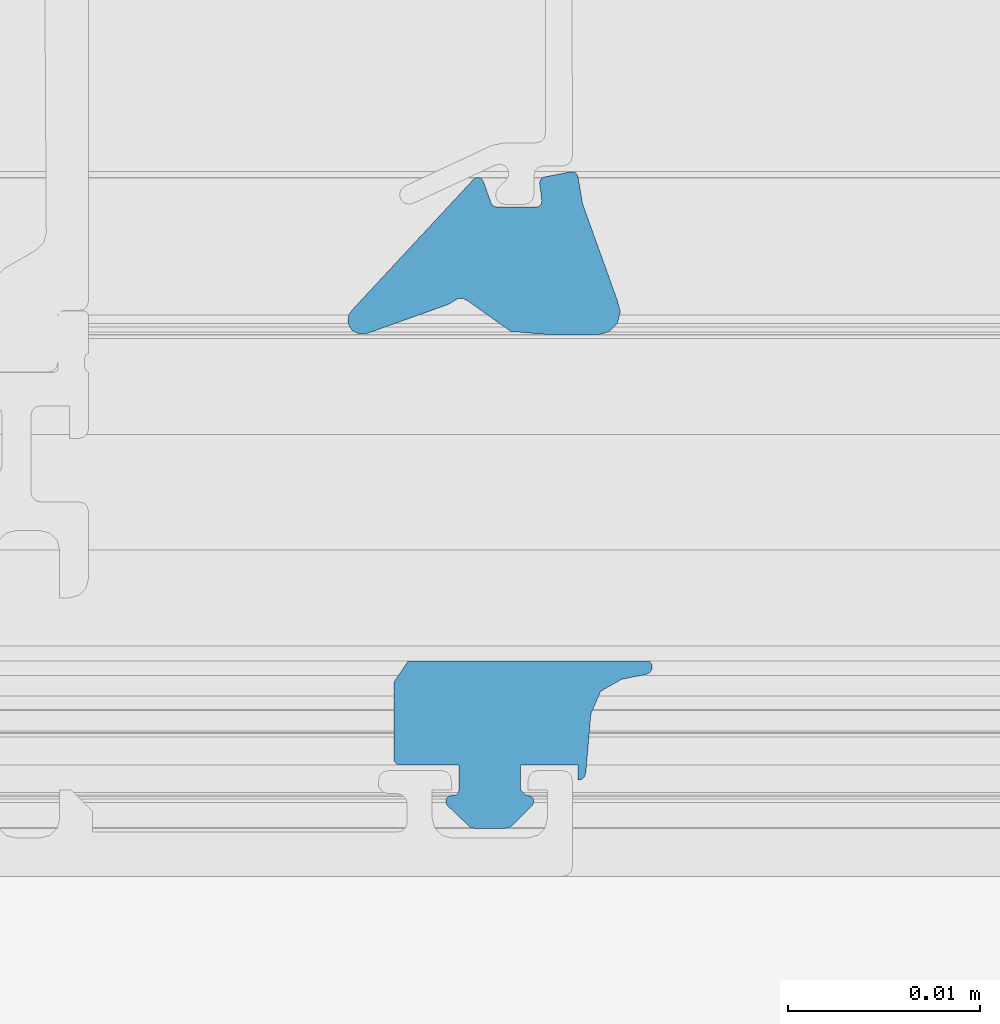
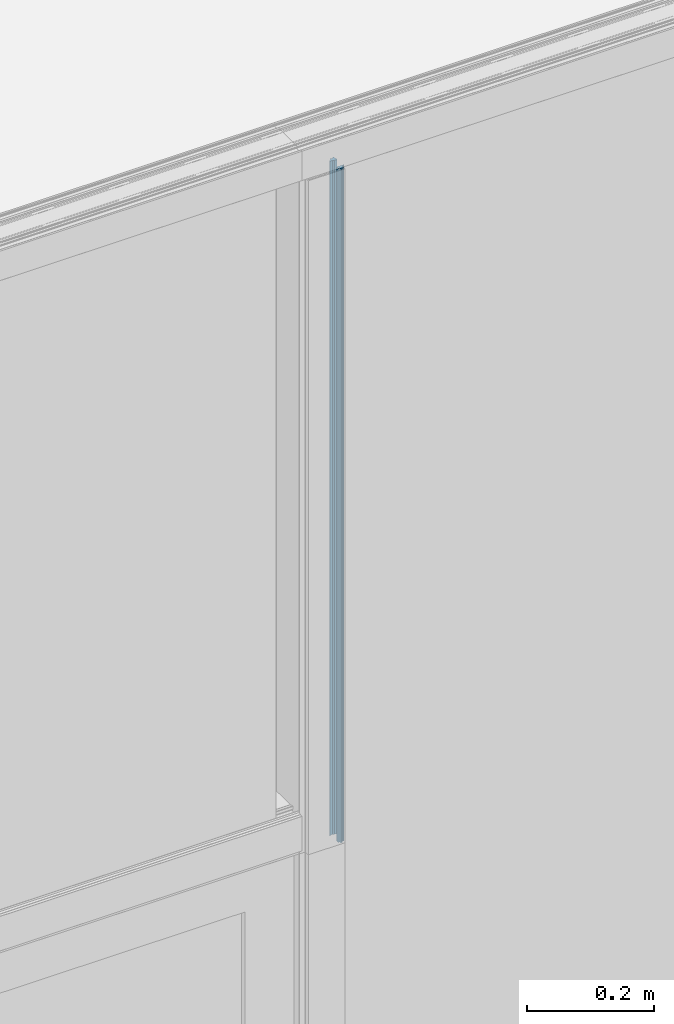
# One storey, part 27 of 69: 1 building element part, 2 elements without a shape of their own.
"""IFC2X3 building model written with IfcOpenShell, lengths in millimetres."""

import ifcopenshell
import ifcopenshell.guid

model = None  # the IFC model being written
_history = None  # IfcOwnerHistory: only IFC2X3 demands one
_inside = {}  # id of a spatial element -> (the spatial element, [elements in it])
_under = {}  # id of a project, library or spatial element -> (it, [spatial elements below it])
_declared = {}  # id of a project -> (the project, [libraries it declares])
_typed = {}  # id of a type object -> (the type object, [elements of that type])
_made_of = {}  # id of a material, layer set ... -> (it, [elements and type objects made of it])


def new_model(schema):
    """Start an empty IFC model of exactly this schema.

    Asked for "IFC4X3", IfcOpenShell would pick the latest addendum, in which some entities
    have other attributes; the version numbers below select the first issue.
    IFC2X3 requires an IfcOwnerHistory on every rooted entity: one is made here for all.
    """
    global model, _history
    if schema == "IFC4X3":
        model = ifcopenshell.file(schema_version=(4, 3, 0, 0))
    else:
        model = ifcopenshell.file(schema=schema)
    _inside.clear()
    _under.clear()
    _declared.clear()
    _typed.clear()
    _made_of.clear()
    _history = None
    if model.schema == "IFC2X3":
        org = make("IfcOrganization", Name="unknown")
        user = make(
            "IfcPersonAndOrganization",
            ThePerson=make("IfcPerson", FamilyName="unknown"),
            TheOrganization=org,
        )
        app = make(
            "IfcApplication",
            ApplicationDeveloper=org,
            Version="unknown",
            ApplicationFullName="unknown",
            ApplicationIdentifier="unknown",
        )
        _history = make(
            "IfcOwnerHistory",
            OwningUser=user,
            OwningApplication=app,
            ChangeAction="ADDED",
            CreationDate=0,
        )
    return model


def make(cls, **values):
    """One entity of the class cls with the attributes given. An attribute that is None is left unset."""
    return model.create_entity(
        cls, **{name: value for name, value in values.items() if value is not None}
    )


def entity(cls, *values):
    """Any entity or typed value of the class cls, its attributes in the order of the schema. None: left unset."""
    e = model.create_entity(cls)
    for i, value in enumerate(values):
        if value is not None:
            e[i] = value
    return e


def rooted(cls, **values):
    """An entity with a GlobalId (a new one), such as an element, a storey or a relation."""
    return make(cls, GlobalId=ifcopenshell.guid.new(), OwnerHistory=_history, **values)


def si_unit(unit_type, name, prefix=None):
    """IfcSIUnit, for example si_unit("LENGTHUNIT", "METRE", prefix="MILLI")."""
    return make("IfcSIUnit", UnitType=unit_type, Prefix=prefix, Name=name)


def converted_unit(unit_type, name, factor, base, dimensions=None, offset=None):
    """IfcConversionBasedUnit, such as the inch: factor (a typed value) times the base unit."""
    return make(
        "IfcConversionBasedUnit"
        if offset is None
        else "IfcConversionBasedUnitWithOffset",
        ConversionOffset=offset,
        Dimensions=None
        if dimensions is None
        else entity("IfcDimensionalExponents", *dimensions),
        UnitType=unit_type,
        Name=name,
        ConversionFactor=make(
            "IfcMeasureWithUnit", ValueComponent=factor, UnitComponent=base
        ),
    )


def derived_unit(unit_type, elements):
    """IfcDerivedUnit: a product of units, each with its exponent."""
    return make(
        "IfcDerivedUnit",
        Elements=[
            make("IfcDerivedUnitElement", Unit=unit, Exponent=power)
            for unit, power in elements
        ],
        UnitType=unit_type,
    )


def money_unit(currency):
    """IfcMonetaryUnit."""
    return make("IfcMonetaryUnit", Currency=currency)


def assignment(units):
    """IfcUnitAssignment: the units of a project."""
    return None if units is None else make("IfcUnitAssignment", Units=units)


def point(xyz):
    """IfcCartesianPoint."""
    return None if xyz is None else make("IfcCartesianPoint", Coordinates=xyz)


def direction(xyz):
    """IfcDirection."""
    return None if xyz is None else make("IfcDirection", DirectionRatios=xyz)


def frame(location, z_axis=None, x_axis=None):
    """IfcAxis2Placement3D, a coordinate frame: its origin and axes. An axis left out is left unset."""
    return make(
        "IfcAxis2Placement3D",
        Location=point(location),
        Axis=direction(z_axis),
        RefDirection=direction(x_axis),
    )


def origin_with_axes():
    """The frame at (0, 0, 0) with the z axis (0, 0, 1) and the x axis (1, 0, 0) written out."""
    return frame((0.0, 0.0, 0.0), z_axis=(0.0, 0.0, 1.0), x_axis=(1.0, 0.0, 0.0))


def place(relative_to, where):
    """IfcLocalPlacement: puts the frame where relative to a parent placement (None: the world)."""
    return make(
        "IfcLocalPlacement", PlacementRelTo=relative_to, RelativePlacement=where
    )


def context(
    kind, dimensions, precision=None, world=None, true_north=None, identifier=None
):
    """IfcGeometricRepresentationContext, for example the 3D "Model" context."""
    return make(
        "IfcGeometricRepresentationContext",
        ContextIdentifier=identifier,
        ContextType=kind,
        CoordinateSpaceDimension=dimensions,
        Precision=precision,
        WorldCoordinateSystem=world,
        TrueNorth=true_north,
    )


def subcontext(parent, identifier, kind, view, scale=None):
    """IfcGeometricRepresentationSubContext, for example "Body" below "Model"."""
    return make(
        "IfcGeometricRepresentationSubContext",
        ContextIdentifier=identifier,
        ContextType=kind,
        ParentContext=parent,
        TargetScale=scale,
        TargetView=view,
    )


def project(units=None, contexts=None):
    """IfcProject with its units and contexts."""
    return rooted(
        "IfcProject",
        Name="project",
        RepresentationContexts=contexts,
        UnitsInContext=assignment(units),
    )


def spatial(cls, under=None, at=None, **own):
    """A site, building, storey or space (cls), placed at a placement, below another one or the project."""
    s = rooted(cls, ObjectPlacement=at, **own)
    if under is not None:
        _under.setdefault(under.id(), (under, []))[1].append(s)
    return s


def faces_of(points, faces, orient=None, outer=None):
    """IfcFace entities. A face is a list of loops; a loop is a list of indices into points, from 0.

    orient and outer hold one flag for each loop. By default every Orientation is true, the
    first loop of a face is its IfcFaceOuterBound and the others are IfcFaceBound.
    """
    made = []
    for i, loops in enumerate(faces):
        bounds = []
        for j, loop in enumerate(loops):
            is_outer = j == 0 if outer is None else outer[i][j]
            bounds.append(
                make(
                    "IfcFaceOuterBound" if is_outer else "IfcFaceBound",
                    Bound=make("IfcPolyLoop", Polygon=[points[k] for k in loop]),
                    Orientation=True if orient is None else orient[i][j],
                )
            )
        made.append(make("IfcFace", Bounds=bounds))
    return made


def faceted_brep(points, faces, orient=None, outer=None, voids=None):
    """IfcFacetedBrep: a solid bounded by flat faces; with voids (closed shells), ...WithVoids."""
    shared = [point(p) for p in points]
    hull = make("IfcClosedShell", CfsFaces=faces_of(shared, faces, orient, outer))
    if voids is None:
        return make("IfcFacetedBrep", Outer=hull)
    return make(
        "IfcFacetedBrepWithVoids",
        Outer=hull,
        Voids=[
            make(cls, CfsFaces=faces_of(shared, fs, o, b)) for cls, fs, o, b in voids
        ],
    )


def shape(context_of_items, identifier, shape_type, items):
    """IfcShapeRepresentation: the items that make up one representation, for example the "Body"."""
    return make(
        "IfcShapeRepresentation",
        ContextOfItems=context_of_items,
        RepresentationIdentifier=identifier,
        RepresentationType=shape_type,
        Items=items,
    )


def material(Name=None, Category=None):
    """IfcMaterial."""
    return make("IfcMaterial", Name=Name, Category=Category)


def made_of(thing, what):
    """Note that an element or type object is made of a material, layer set ...; save() writes the relation."""
    if what is not None:
        _made_of.setdefault(what.id(), (what, []))[1].append(thing)
    return thing


def type_object(cls, material=None, **own):
    """A type object (cls), such as IfcWallType, which elements share."""
    return made_of(rooted(cls, **own), material)


def element(
    cls,
    number,
    at=None,
    inside=None,
    cuts=None,
    type_object=None,
    material=None,
    context=None,
    identifier="Body",
    shape_type=None,
    held_by="IfcProductDefinitionShape",
    body=None,
    shapes=None,
    **own,
):
    """One element of the class cls, such as IfcWall. Its Tag is "e" and its number.

    at: its placement. inside: the storey or other place that contains it. cuts: it is an
    opening in that element (IfcRelVoidsElement). A single representation is given by context,
    identifier, shape_type and body (its items); several are given by shapes. held_by: the class
    of the entity that holds the representations. save() writes the other relations.
    """
    e = rooted(cls, Tag="e%d" % number, ObjectPlacement=at, **own)
    if body is not None:
        shapes = [shape(context, identifier, shape_type, body)]
    if shapes is not None:
        e.Representation = make(held_by, Representations=shapes)
    if inside is not None:
        _inside.setdefault(inside.id(), (inside, []))[1].append(e)
    if cuts is not None:
        rooted(
            "IfcRelVoidsElement", RelatingBuildingElement=cuts, RelatedOpeningElement=e
        )
    if type_object is not None:
        _typed.setdefault(type_object.id(), (type_object, []))[1].append(e)
    return made_of(e, material)


def aggregate(whole, parts):
    """IfcRelAggregates: a whole, such as a stair, and the parts it consists of."""
    return rooted("IfcRelAggregates", RelatingObject=whole, RelatedObjects=parts)


def save(model, path):
    """Write the relations noted so far, then the file.

    IfcRelAggregates (storeys below a building ...), IfcRelContainedInSpatialStructure (elements
    in a storey), IfcRelDefinesByType, IfcRelAssociatesMaterial and IfcRelDeclares: one each for
    every whole, place, type object, material and project.
    """
    for whole, parts in _under.values():
        aggregate(whole, parts)
    for where, things in _inside.values():
        rooted(
            "IfcRelContainedInSpatialStructure",
            RelatedElements=things,
            RelatingStructure=where,
        )
    for kind, things in _typed.values():
        rooted("IfcRelDefinesByType", RelatedObjects=things, RelatingType=kind)
    for what, things in _made_of.values():
        rooted("IfcRelAssociatesMaterial", RelatedObjects=things, RelatingMaterial=what)
    for by, libraries in _declared.values():
        rooted("IfcRelDeclares", RelatingContext=by, RelatedDefinitions=libraries)
    model.write(path)


model = new_model("IFC2X3")

# Units and contexts
model_context = context("Model", 3, precision=0.01, world=origin_with_axes(), true_north=direction((0.0, 1.0)))
body_context = subcontext(model_context, "Body", "Model", "MODEL_VIEW")
ifc_project = project(units=[si_unit("LENGTHUNIT", "METRE", prefix="MILLI"), si_unit("AREAUNIT", "SQUARE_METRE"), si_unit("VOLUMEUNIT", "CUBIC_METRE"), converted_unit("PLANEANGLEUNIT", "DEGREE", entity("IfcPlaneAngleMeasure", 0.0174532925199), si_unit("PLANEANGLEUNIT", "RADIAN"), dimensions=[0, 0, 0, 0, 0, 0, 0]), si_unit("SOLIDANGLEUNIT", "STERADIAN"), money_unit("EUR"), converted_unit("TIMEUNIT", "Year", entity("IfcTimeMeasure", 31556926.0), si_unit("TIMEUNIT", "SECOND"), dimensions=[0, 0, 1, 0, 0, 0, 0]), si_unit("MASSUNIT", "GRAM", prefix="KILO"), si_unit("THERMODYNAMICTEMPERATUREUNIT", "DEGREE_CELSIUS"), si_unit("LUMINOUSINTENSITYUNIT", "LUMEN"), si_unit("ENERGYUNIT", "JOULE", prefix="MEGA"), derived_unit("THERMALCONDUCTANCEUNIT", [(si_unit("POWERUNIT", "WATT"), 1), (si_unit("LENGTHUNIT", "METRE"), -1), (si_unit("THERMODYNAMICTEMPERATUREUNIT", "KELVIN"), -1)]), derived_unit("SPECIFICHEATCAPACITYUNIT", [(si_unit("ENERGYUNIT", "JOULE"), 1), (si_unit("MASSUNIT", "GRAM", prefix="KILO"), -1), (si_unit("THERMODYNAMICTEMPERATUREUNIT", "KELVIN"), -1)]), derived_unit("MASSDENSITYUNIT", [(si_unit("MASSUNIT", "GRAM", prefix="KILO"), 1), (si_unit("VOLUMEUNIT", "CUBIC_METRE"), -1)])], contexts=[model_context])

# Site, building, storey
site_placement = place(None, origin_with_axes())
site = spatial("IfcSite", under=ifc_project, at=site_placement, Name="Puškini 31, Narva", CompositionType="ELEMENT")
building_placement = place(site_placement, origin_with_axes())
building = spatial("IfcBuilding", under=site, at=building_placement, Name="Narva Riigigümnaasium", CompositionType="ELEMENT")
storey_placement = place(building_placement, origin_with_axes())
storey = spatial("IfcBuildingStorey", under=building, at=storey_placement, Name="1.korrus 0.00", CompositionType="ELEMENT", Elevation=0.0)

# Curtain wall, member, building element part
curtain_wall_type = type_object("IfcCurtainWallType", Name="Curtain Wall Type", PredefinedType="NOTDEFINED")
curtain_wall_placement = place(storey_placement, frame((18229.9603698, 152620.000001, -0.397158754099), z_axis=(0.0, 0.0, 1.0), x_axis=(1.0, 0.0, 0.0)))
curtain_wall = element("IfcCurtainWall", 1, at=curtain_wall_placement, inside=storey, type_object=curtain_wall_type, Name="G-KLF-01-1")
member_type = type_object("IfcMemberType", Name="82 x 35", PredefinedType="MULLION")
member_placement = place(curtain_wall_placement, frame((3158.7233041, 0.0, 2400.00003439), z_axis=(0.0, 0.0, 1.0), x_axis=(1.0, 0.0, 0.0)))
member = element("IfcMember", 2, at=member_placement, type_object=member_type, Name="G-SKLF-01-raam", ObjectType="MULLION")
aggregate(curtain_wall, [member])
ifc_material = material(Name="Membraan - Veekindel")
building_element_part_placement = place(member_placement, origin_with_axes())
building_element_part = element("IfcBuildingElementPart", 3, at=building_element_part_placement, material=ifc_material, Name="Membraan - Veekindel", context=body_context, shape_type="Brep", body=[
    faceted_brep([(74.9898926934, -16.6230552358, 0.0), (74.9898926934, -16.6230552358, 1299.23237892), (72.7204882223, -15.0100099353, 1299.23237892), (72.7204882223, -15.0100099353, 0.0), (77.1927259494, -16.806401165, 0.0), (77.1927259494, -16.806401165, 1299.23237892), (79.5038972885, -16.8013439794, 1299.23237892), (80.1029794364, -16.6395947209, 1299.23237892), (80.5411647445, -16.2002134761, 1299.23237892), (80.7012805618, -15.6006926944, 1299.23237892), (80.5405112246, -15.001346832, 1299.23237892), (78.7418652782, -10.0036443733, 1299.23237892), (78.4882789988, -8.54540440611, 1299.23237892), (78.4207620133, -8.40475732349, 1299.23237892), (78.2917480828, -8.3170330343, 1299.23237892), (78.1361285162, -8.30595622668, 1299.23237892), (76.7361285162, -8.57808865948, 1299.23237892), (76.601588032, -8.64188392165, 1299.23237892), (76.5142922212, -8.76250903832, 1299.23237892), (76.4957458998, -8.91024871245, 1299.23237892), (76.6099827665, -9.81277248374, 1299.23237892), (76.5838261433, -9.97813443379, 1299.23237892), (76.4731258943, -10.1037298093, 1299.23237892), (76.3123574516, -10.1504443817, 1299.23237892), (74.2580290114, -10.1504443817, 1299.23237892), (74.0859560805, -10.096189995, 1299.23237892), (73.9761212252, -9.95305042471, 1299.23237892), (73.5556584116, -8.79783833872, 1299.23237892), (73.4722984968, -8.67558063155, 1299.23237892), (73.3406152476, -8.60808734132, 1299.23237892), (73.192689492, -8.61180126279, 1299.23237892), (73.0645590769, -8.68581760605, 1299.23237892), (66.8142070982, -15.4145273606, 1299.23237892), (66.5501763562, -15.7474287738, 1299.23237892), (66.5093924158, -16.1703616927, 1299.23237892), (66.7049453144, -16.5475813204, 1299.23237892), (67.0740702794, -16.7580150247, 1299.23237892), (67.4982927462, -16.7341218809, 1299.23237892), (71.7536994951, -15.2121692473, 1299.23237892), (72.0437237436, -15.0307647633, 1299.23237892), (72.2558878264, -14.9074571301, 1299.23237892), (72.5011668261, -14.8999349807, 1299.23237892), (72.5011668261, -14.8999349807, 0.0), (72.2558878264, -14.9074571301, 0.0), (72.0437237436, -15.0307647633, 0.0), (71.7536994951, -15.2121692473, 0.0), (67.4982927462, -16.7341218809, 0.0), (67.0740702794, -16.7580150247, 0.0), (66.7049453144, -16.5475813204, 0.0), (66.5093924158, -16.1703616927, 0.0), (66.5501763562, -15.7474287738, 0.0), (66.8142070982, -15.4145273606, 0.0), (73.0645590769, -8.68581760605, 0.0), (73.192689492, -8.61180126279, 0.0), (73.3406152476, -8.60808734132, 0.0), (73.4722984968, -8.67558063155, 0.0), (73.5556584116, -8.79783833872, 0.0), (73.9761212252, -9.95305042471, 0.0), (74.0859560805, -10.096189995, 0.0), (74.2580290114, -10.1504443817, 0.0), (76.3123574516, -10.1504443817, 0.0), (76.4731258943, -10.1037298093, 0.0), (76.5838261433, -9.97813443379, 0.0), (76.6099827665, -9.81277248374, 0.0), (76.4957458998, -8.91024871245, 0.0), (76.5142922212, -8.76250903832, 0.0), (76.601588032, -8.64188392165, 0.0), (76.7361285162, -8.57808865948, 0.0), (78.1361285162, -8.30595622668, 0.0), (78.2917480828, -8.3170330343, 0.0), (78.4207620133, -8.40475732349, 0.0), (78.4882789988, -8.54540440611, 0.0), (78.7418652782, -10.0036443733, 0.0), (80.5405112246, -15.001346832, 0.0), (80.7012805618, -15.6006926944, 0.0), (80.5411647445, -16.2002134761, 0.0), (80.1029794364, -16.6395947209, 0.0), (79.5038972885, -16.8013439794, 0.0)], [[[0, 1, 2, 3]], [[4, 5, 1, 0]], [[1, 5, 6, 7, 8, 9, 10, 11, 12, 13, 14, 15, 16, 17, 18, 19, 20, 21, 22, 23, 24, 25, 26, 27, 28, 29, 30, 31, 32, 33, 34, 35, 36, 37, 38, 39, 40, 41, 2]], [[3, 2, 41, 42]], [[0, 3, 42, 43, 44, 45, 46, 47, 48, 49, 50, 51, 52, 53, 54, 55, 56, 57, 58, 59, 60, 61, 62, 63, 64, 65, 66, 67, 68, 69, 70, 71, 72, 73, 74, 75, 76, 77, 4]], [[77, 6, 5, 4]], [[76, 7, 6, 77]], [[75, 8, 7, 76]], [[74, 9, 8, 75]], [[73, 10, 9, 74]], [[72, 11, 10, 73]], [[71, 12, 11, 72]], [[70, 13, 12, 71]], [[69, 14, 13, 70]], [[68, 15, 14, 69]], [[67, 16, 15, 68]], [[66, 17, 16, 67]], [[65, 18, 17, 66]], [[64, 19, 18, 65]], [[63, 20, 19, 64]], [[62, 21, 20, 63]], [[61, 22, 21, 62]], [[60, 23, 22, 61]], [[59, 24, 23, 60]], [[58, 25, 24, 59]], [[57, 26, 25, 58]], [[56, 27, 26, 57]], [[55, 28, 27, 56]], [[54, 29, 28, 55]], [[53, 30, 29, 54]], [[52, 31, 30, 53]], [[51, 32, 31, 52]], [[50, 33, 32, 51]], [[49, 34, 33, 50]], [[48, 35, 34, 49]], [[47, 36, 35, 48]], [[46, 37, 36, 47]], [[45, 38, 37, 46]], [[44, 39, 38, 45]], [[43, 40, 39, 44]], [[42, 41, 40, 43]]]),
    faceted_brep([(72.8904310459, -42.4618935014, 0.0), (72.8904310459, -42.4618935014, 1299.23237892), (71.6876987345, -41.3119145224, 1299.23237892), (71.6876987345, -41.3119145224, 0.0), (73.0818844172, -42.5, 0.0), (73.0818844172, -42.5, 1299.23237892), (74.717932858, -42.5, 1299.23237892), (74.9093558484, -42.461906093, 1299.23237892), (75.0716106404, -42.353428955, 1299.23237892), (76.1122970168, -41.3120098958, 1299.23237892), (76.1942964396, -41.1583915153, 1299.23237892), (76.1771585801, -40.9851032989, 1299.23237892), (76.0666568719, -40.8505228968, 1299.23237892), (75.9000173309, -40.799988, 1299.23237892), (75.800021, -40.799988, 1299.23237892), (75.500021, -40.499988, 1299.23237892), (75.500021, -39.200012, 1299.23237892), (76.5000210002, -39.200012, 1299.23237892), (78.5000022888, -39.2000007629, 1299.23237892), (78.5000022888, -40.0000359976, 1299.23237892), (78.7000161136, -39.9464425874, 1299.23237892), (78.8464370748, -39.8000230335, 1299.23237892), (78.9000324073, -39.6000097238, 1299.23237892), (79.1693613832, -36.5266395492, 1299.23237892), (79.6755028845, -35.3629012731, 1299.23237892), (80.7800222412, -34.7379988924, 1299.23237892), (82.041102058, -34.4928127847, 1299.23237892), (82.2412066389, -34.3909158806, 1299.23237892), (82.3536959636, -34.1965683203, 1299.23237892), (82.3423779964, -33.9722990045, 1299.23237892), (82.2108941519, -33.7902637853, 1299.23237892), (69.647137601, -33.7902637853, 1299.23237892), (68.8997554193, -34.9006000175, 1299.23237892), (68.9000321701, -38.9000291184, 1299.23237892), (68.9402207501, -39.0500149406, 1299.23237892), (69.0500179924, -39.159812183, 1299.23237892), (69.2000038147, -39.2000007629, 1299.23237892), (71.30004, -39.2000007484, 1299.23237892), (72.30004, -39.200012, 1299.23237892), (72.30004, -40.499988, 1299.23237892), (72.2598476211, -40.649988, 1299.23237892), (72.15004, -40.7597956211, 1299.23237892), (72.00004, -40.799988, 1299.23237892), (71.900046, -40.799988, 1299.23237892), (71.7334350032, -40.8505059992, 1299.23237892), (71.6229356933, -40.9850466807, 1299.23237892), (71.6057623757, -41.1582990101, 1299.23237892), (71.6057623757, -41.1582990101, 0.0), (71.6229356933, -40.9850466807, 0.0), (71.7334350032, -40.8505059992, 0.0), (71.900046, -40.799988, 0.0), (72.00004, -40.799988, 0.0), (72.15004, -40.7597956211, 0.0), (72.2598476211, -40.649988, 0.0), (72.30004, -40.499988, 0.0), (72.30004, -39.200012, 0.0), (71.30004, -39.2000007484, 0.0), (69.2000038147, -39.2000007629, 0.0), (69.0500179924, -39.159812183, 0.0), (68.9402207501, -39.0500149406, 0.0), (68.9000321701, -38.9000291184, 0.0), (68.8997554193, -34.9006000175, 0.0), (69.647137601, -33.7902637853, 0.0), (82.2108941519, -33.7902637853, 0.0), (82.3423779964, -33.9722990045, 0.0), (82.3536959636, -34.1965683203, 0.0), (82.2412066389, -34.3909158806, 0.0), (82.041102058, -34.4928127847, 0.0), (80.7800222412, -34.7379988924, 0.0), (79.6755028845, -35.3629012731, 0.0), (79.1693613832, -36.5266395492, 0.0), (78.9000324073, -39.6000097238, 0.0), (78.8464370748, -39.8000230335, 0.0), (78.7000161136, -39.9464425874, 0.0), (78.5000022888, -40.0000359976, 0.0), (78.5000022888, -39.2000007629, 0.0), (76.5000210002, -39.200012, 0.0), (75.500021, -39.200012, 0.0), (75.500021, -40.499988, 0.0), (75.800021, -40.799988, 0.0), (75.9000173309, -40.799988, 0.0), (76.0666568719, -40.8505228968, 0.0), (76.1771585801, -40.9851032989, 0.0), (76.1942964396, -41.1583915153, 0.0), (76.1122970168, -41.3120098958, 0.0), (75.0716106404, -42.353428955, 0.0), (74.9093558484, -42.461906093, 0.0), (74.717932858, -42.5, 0.0)], [[[0, 1, 2, 3]], [[4, 5, 1, 0]], [[1, 5, 6, 7, 8, 9, 10, 11, 12, 13, 14, 15, 16, 17, 18, 19, 20, 21, 22, 23, 24, 25, 26, 27, 28, 29, 30, 31, 32, 33, 34, 35, 36, 37, 38, 39, 40, 41, 42, 43, 44, 45, 46, 2]], [[3, 2, 46, 47]], [[0, 3, 47, 48, 49, 50, 51, 52, 53, 54, 55, 56, 57, 58, 59, 60, 61, 62, 63, 64, 65, 66, 67, 68, 69, 70, 71, 72, 73, 74, 75, 76, 77, 78, 79, 80, 81, 82, 83, 84, 85, 86, 87, 4]], [[87, 6, 5, 4]], [[86, 7, 6, 87]], [[85, 8, 7, 86]], [[84, 9, 8, 85]], [[83, 10, 9, 84]], [[82, 11, 10, 83]], [[81, 12, 11, 82]], [[80, 13, 12, 81]], [[79, 14, 13, 80]], [[78, 15, 14, 79]], [[77, 16, 15, 78]], [[76, 17, 16, 77]], [[75, 18, 17, 76]], [[74, 19, 18, 75]], [[73, 20, 19, 74]], [[72, 21, 20, 73]], [[71, 22, 21, 72]], [[70, 23, 22, 71]], [[69, 24, 23, 70]], [[68, 25, 24, 69]], [[67, 26, 25, 68]], [[66, 27, 26, 67]], [[65, 28, 27, 66]], [[64, 29, 28, 65]], [[63, 30, 29, 64]], [[62, 31, 30, 63]], [[61, 32, 31, 62]], [[60, 33, 32, 61]], [[59, 34, 33, 60]], [[58, 35, 34, 59]], [[57, 36, 35, 58]], [[56, 37, 36, 57]], [[55, 38, 37, 56]], [[54, 39, 38, 55]], [[53, 40, 39, 54]], [[52, 41, 40, 53]], [[51, 42, 41, 52]], [[50, 43, 42, 51]], [[49, 44, 43, 50]], [[48, 45, 44, 49]], [[47, 46, 45, 48]]]),
])
aggregate(member, [building_element_part])

save(model, "model.ifc")
